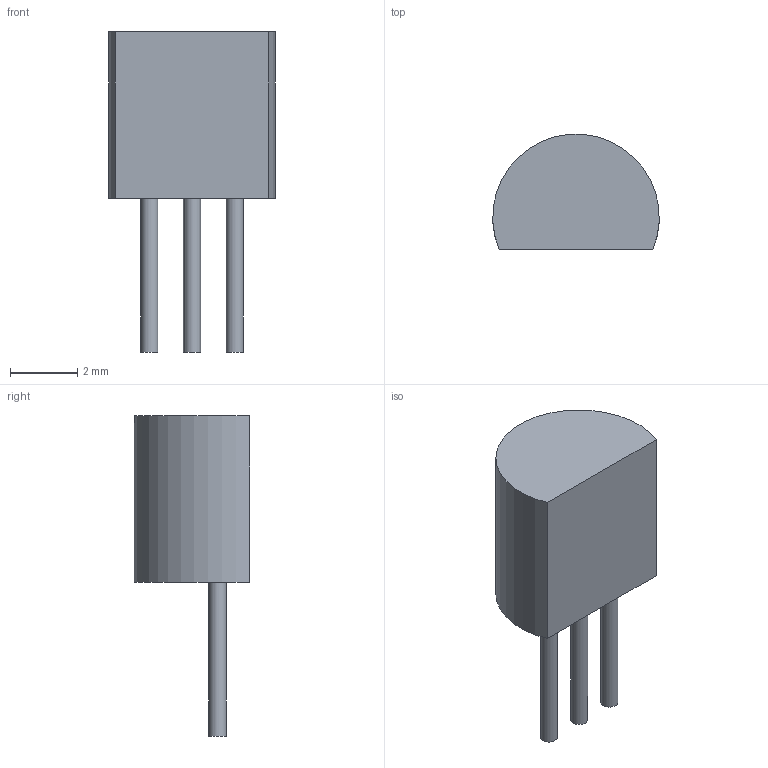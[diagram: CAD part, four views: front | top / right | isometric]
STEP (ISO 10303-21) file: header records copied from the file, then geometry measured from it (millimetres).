
FILE_DESCRIPTION(('STEP AP214'),'1');
FILE_NAME('21-0248A_Q3-1_MXM','2025-10-20T08:36:26',(''),(''),'','','');
FILE_SCHEMA(('AUTOMOTIVE_DESIGN'));
Length unit declared in the file: millimetre
Products named in the file (1): product
Bounding box: 4.95 x 3.42 x 9.53 mm (x, y, z)
Volume: 73.3 mm3; surface area: 122.4 mm2
Topology: 4 solids, 4 shells, 13 faces, 15 edges, 10 vertices
Faces by surface type: plane 9, cylinder 4
Full cylindrical faces by diameter (mm): 0.508 x3
Entity records: 425 total; most frequent: DIRECTION 54, CARTESIAN_POINT 35, AXIS2_PLACEMENT_3D 25, ORIENTED_EDGE 24, PRESENTATION_STYLE_ASSIGNMENT 17, SURFACE_STYLE_USAGE 17, SURFACE_SIDE_STYLE 17, SURFACE_STYLE_FILL_AREA 17
